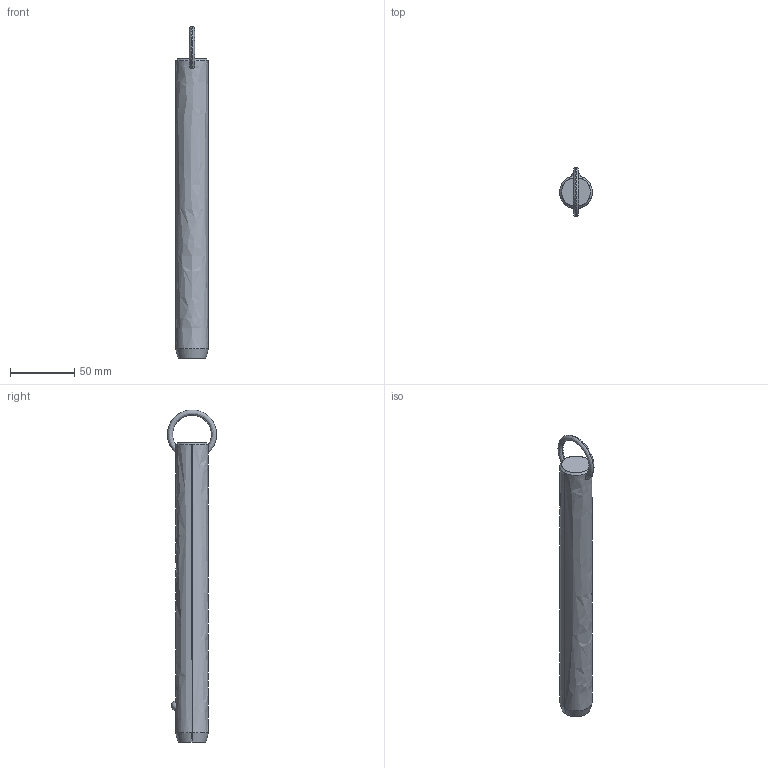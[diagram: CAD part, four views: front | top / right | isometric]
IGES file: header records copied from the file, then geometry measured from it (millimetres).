
Start section: SolidWorks IGES file using analytic representation for surfaces
Global section: file name: C:\Users\liam_\OneDrive\Documents\WORK\Work for WixRoyd\Job Files\J-00019 - Matt Davis CAD Checking\04. CAD Drawings\automotion20190605\P1250.2_v2\P1250.2_v2_20190729_IGES\P1250.100-740.igs; native system: SolidWorks 2017; preprocessor: SolidWorks 2017; author: liam_; date: 190730.174930; units: millimetre
Bounding box: 25.4 x 38.09 x 257.8 mm (x, y, z)
Surface area: 20318 mm2 (no closed solid volume)
Topology: 0 solids, 0 shells, 12 faces, 298 edges, 296 vertices
Faces by surface type: revolution 8, bspline 4
